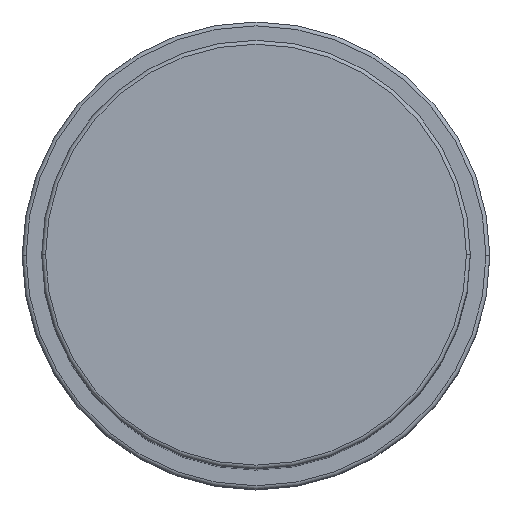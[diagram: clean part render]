
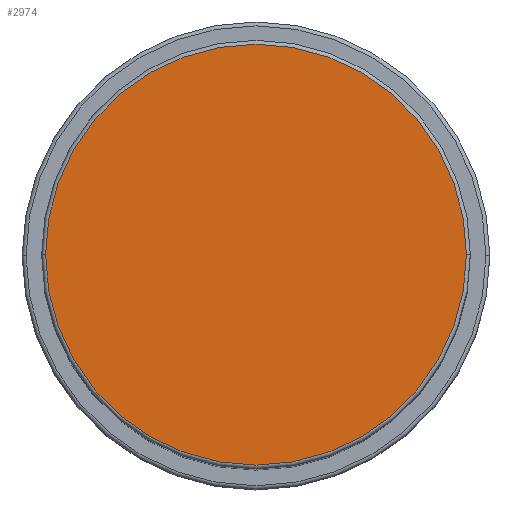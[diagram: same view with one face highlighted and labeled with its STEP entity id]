
A CAD part, top view. The second image highlights one B-rep face of the part: STEP entity #2974.
In plain terms, the highlighted planar face has unit normal (0, 0, 1).
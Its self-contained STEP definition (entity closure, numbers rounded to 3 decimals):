
#25 = VERTEX_POINT ( 'NONE', #3202 ) ;
#82 = ORIENTED_EDGE ( 'NONE', *, *, #1794, .T. ) ;
#314 = AXIS2_PLACEMENT_3D ( 'NONE', #1258, #3507, #1581 ) ;
#614 = CARTESIAN_POINT ( 'NONE',  ( 0., 0., 111. ) ) ;
#1258 = CARTESIAN_POINT ( 'NONE',  ( 0., 0., 111. ) ) ;
#1314 = DIRECTION ( 'NONE',  ( 1., 0., 0. ) ) ;
#1398 = CARTESIAN_POINT ( 'NONE',  ( 0., 0., 111. ) ) ;
#1581 = DIRECTION ( 'NONE',  ( 1., 0., 0. ) ) ;
#1617 = AXIS2_PLACEMENT_3D ( 'NONE', #1398, #3324, #4085 ) ;
#1794 = EDGE_CURVE ( 'NONE', #4279, #25, #4162, .T. ) ;
#2368 = AXIS2_PLACEMENT_3D ( 'NONE', #614, #3652, #1314 ) ;
#2760 = CIRCLE ( 'NONE', #314, 27. ) ;
#2974 = ADVANCED_FACE ( 'NONE', ( #3219 ), #3672, .T. ) ;
#3202 = CARTESIAN_POINT ( 'NONE',  ( 27., 0., 111. ) ) ;
#3219 = FACE_OUTER_BOUND ( 'NONE', #4784, .T. ) ;
#3229 = EDGE_CURVE ( 'NONE', #25, #4279, #2760, .T. ) ;
#3324 = DIRECTION ( 'NONE',  ( 0., 0., 1. ) ) ;
#3416 = ORIENTED_EDGE ( 'NONE', *, *, #3229, .T. ) ;
#3507 = DIRECTION ( 'NONE',  ( 0., 0., 1. ) ) ;
#3652 = DIRECTION ( 'NONE',  ( 0., 0., 1. ) ) ;
#3672 = PLANE ( 'NONE',  #2368 ) ;
#4085 = DIRECTION ( 'NONE',  ( 1., 0., 0. ) ) ;
#4162 = CIRCLE ( 'NONE', #1617, 27. ) ;
#4279 = VERTEX_POINT ( 'NONE', #4880 ) ;
#4784 = EDGE_LOOP ( 'NONE', ( #3416, #82 ) ) ;
#4880 = CARTESIAN_POINT ( 'NONE',  ( -27., 0., 111. ) ) ;
